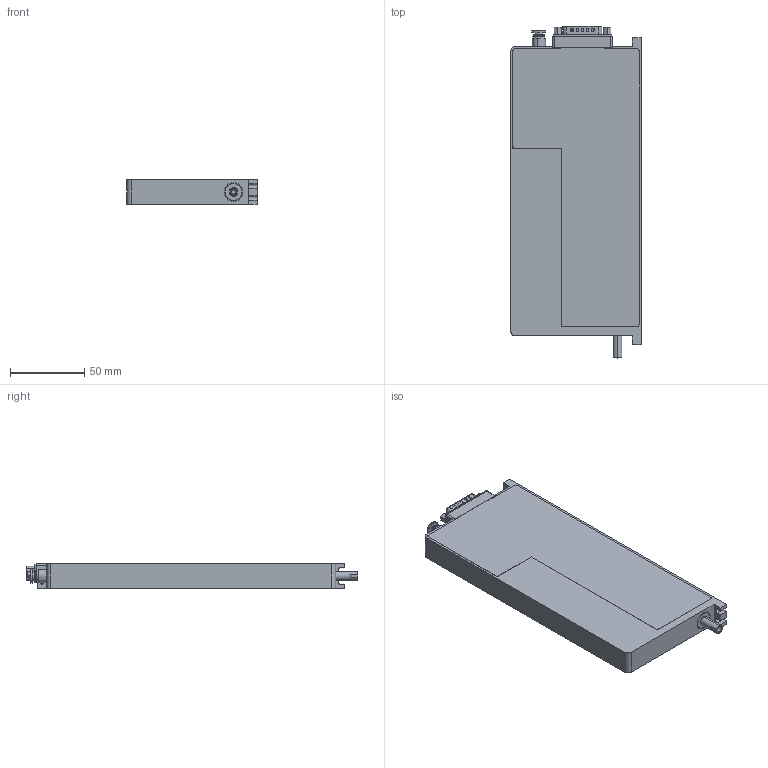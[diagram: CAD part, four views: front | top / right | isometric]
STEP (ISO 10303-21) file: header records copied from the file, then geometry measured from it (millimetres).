
FILE_DESCRIPTION (( 'STEP AP214' ), '1' );
FILE_NAME ('ZRADS6-16.5-S40-EC-ZZ.STEP', '2023-05-06T06:54:15', ( 'XZOS' ), ( 'MS' ), 'SwSTEP 2.0', 'SolidWorks 2019', '' );
FILE_SCHEMA (( 'AUTOMOTIVE_DESIGN' ));
Length unit declared in the file: millimetre
Products named in the file (9): POC4M5-S_2; ZRADS-6-16-S35-006; ZRADS-6-16-S35-010; ZRADS-6-16-S35-001; 揹諳諉芛假蚾翐; ZRADS-6-16-S35-003; Y-ZRADS-6-16-S40-019; ZRADS6-16.5-S40-EC-ZZ; UDB26-PCB_2
Assembly tree (9 placements, depth 2):
  ZRADS6-16.5-S40-EC-ZZ
    ZRADS-6-16-S35-001
    ZRADS-6-16-S35-003
    ZRADS-6-16-S35-006
    ZRADS-6-16-S35-010
    UDB26-PCB_2
    POC4M5-S_2
    Y-ZRADS-6-16-S40-019
    揹諳諉芛假蚾翐  x2
Bounding box: 88 x 223.8 x 16.5 mm (x, y, z)
Volume: 288992.8 mm3; surface area: 82586.2 mm2
Topology: 9 solids, 9 shells, 1142 faces, 2694 edges, 1598 vertices
Faces by surface type: cylinder 559, bspline 277, plane 264, cone 42
Entity records: 49974 total; most frequent: CARTESIAN_POINT 13159, ORIENTED_EDGE 5148, DIRECTION 5085, EDGE_CURVE 2574, AXIS2_PLACEMENT_3D 2005, VERTEX_POINT 1577, EDGE_LOOP 1281, CIRCLE 1143
